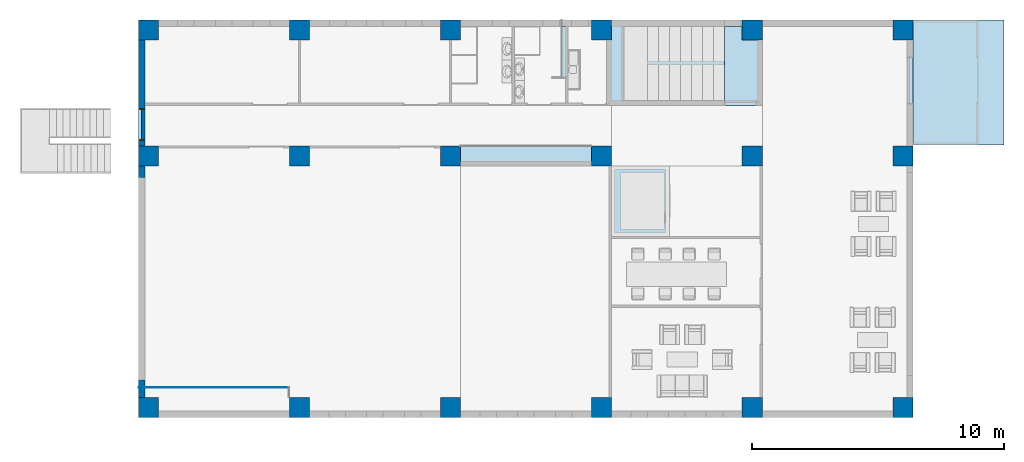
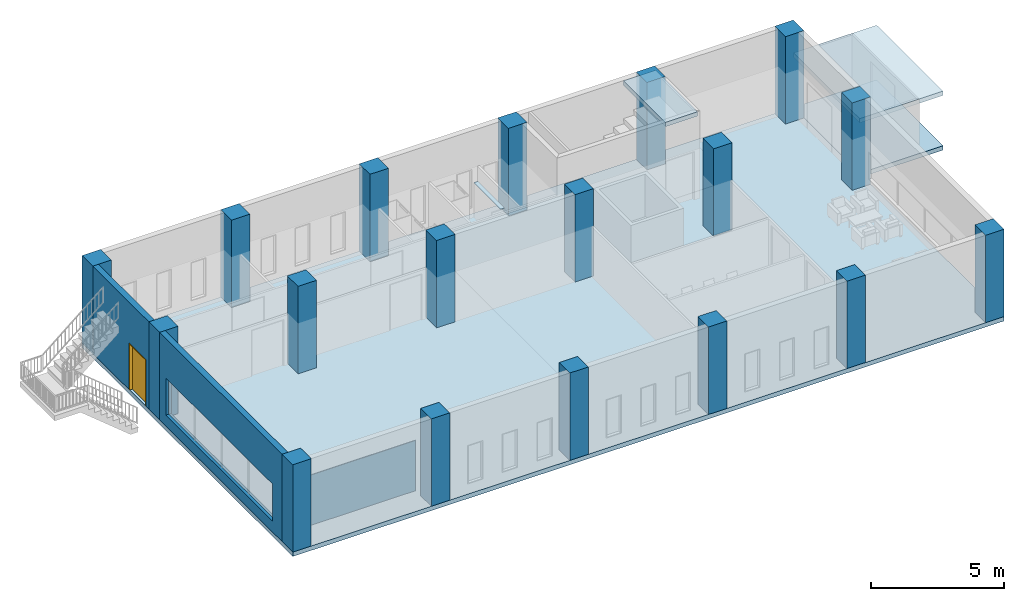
# One storey, part 1 of 17: 18 columns, 5 slabs, 2 walls, 1 door, 2 openings.
"""IFC2X3 building model written with IfcOpenShell, lengths in millimetres."""

import ifcopenshell
import ifcopenshell.guid

model = None  # the IFC model being written
_history = None  # IfcOwnerHistory: only IFC2X3 demands one
_inside = {}  # id of a spatial element -> (the spatial element, [elements in it])
_under = {}  # id of a project, library or spatial element -> (it, [spatial elements below it])
_declared = {}  # id of a project -> (the project, [libraries it declares])
_typed = {}  # id of a type object -> (the type object, [elements of that type])
_made_of = {}  # id of a material, layer set ... -> (it, [elements and type objects made of it])


def new_model(schema):
    """Start an empty IFC model of exactly this schema.

    Asked for "IFC4X3", IfcOpenShell would pick the latest addendum, in which some entities
    have other attributes; the version numbers below select the first issue.
    IFC2X3 requires an IfcOwnerHistory on every rooted entity: one is made here for all.
    """
    global model, _history
    if schema == "IFC4X3":
        model = ifcopenshell.file(schema_version=(4, 3, 0, 0))
    else:
        model = ifcopenshell.file(schema=schema)
    _inside.clear()
    _under.clear()
    _declared.clear()
    _typed.clear()
    _made_of.clear()
    _history = None
    if model.schema == "IFC2X3":
        org = make("IfcOrganization", Name="unknown")
        user = make(
            "IfcPersonAndOrganization",
            ThePerson=make("IfcPerson", FamilyName="unknown"),
            TheOrganization=org,
        )
        app = make(
            "IfcApplication",
            ApplicationDeveloper=org,
            Version="unknown",
            ApplicationFullName="unknown",
            ApplicationIdentifier="unknown",
        )
        _history = make(
            "IfcOwnerHistory",
            OwningUser=user,
            OwningApplication=app,
            ChangeAction="ADDED",
            CreationDate=0,
        )
    return model


def make(cls, **values):
    """One entity of the class cls with the attributes given. An attribute that is None is left unset."""
    return model.create_entity(
        cls, **{name: value for name, value in values.items() if value is not None}
    )


def entity(cls, *values):
    """Any entity or typed value of the class cls, its attributes in the order of the schema. None: left unset."""
    e = model.create_entity(cls)
    for i, value in enumerate(values):
        if value is not None:
            e[i] = value
    return e


def rooted(cls, **values):
    """An entity with a GlobalId (a new one), such as an element, a storey or a relation."""
    return make(cls, GlobalId=ifcopenshell.guid.new(), OwnerHistory=_history, **values)


def si_unit(unit_type, name, prefix=None):
    """IfcSIUnit, for example si_unit("LENGTHUNIT", "METRE", prefix="MILLI")."""
    return make("IfcSIUnit", UnitType=unit_type, Prefix=prefix, Name=name)


def converted_unit(unit_type, name, factor, base, dimensions=None, offset=None):
    """IfcConversionBasedUnit, such as the inch: factor (a typed value) times the base unit."""
    return make(
        "IfcConversionBasedUnit"
        if offset is None
        else "IfcConversionBasedUnitWithOffset",
        ConversionOffset=offset,
        Dimensions=None
        if dimensions is None
        else entity("IfcDimensionalExponents", *dimensions),
        UnitType=unit_type,
        Name=name,
        ConversionFactor=make(
            "IfcMeasureWithUnit", ValueComponent=factor, UnitComponent=base
        ),
    )


def assignment(units):
    """IfcUnitAssignment: the units of a project."""
    return None if units is None else make("IfcUnitAssignment", Units=units)


def point(xyz):
    """IfcCartesianPoint."""
    return None if xyz is None else make("IfcCartesianPoint", Coordinates=xyz)


def direction(xyz):
    """IfcDirection."""
    return None if xyz is None else make("IfcDirection", DirectionRatios=xyz)


def frame(location, z_axis=None, x_axis=None):
    """IfcAxis2Placement3D, a coordinate frame: its origin and axes. An axis left out is left unset."""
    return make(
        "IfcAxis2Placement3D",
        Location=point(location),
        Axis=direction(z_axis),
        RefDirection=direction(x_axis),
    )


def frame_2d(location, x_axis=None):
    """IfcAxis2Placement2D, a coordinate frame in the plane: its origin and x axis."""
    return make(
        "IfcAxis2Placement2D", Location=point(location), RefDirection=direction(x_axis)
    )


def origin_with_axes():
    """The frame at (0, 0, 0) with the z axis (0, 0, 1) and the x axis (1, 0, 0) written out."""
    return frame((0.0, 0.0, 0.0), z_axis=(0.0, 0.0, 1.0), x_axis=(1.0, 0.0, 0.0))


def origin_2d_with_axis():
    """The frame at (0, 0) in the plane with the x axis (1, 0) written out."""
    return frame_2d((0.0, 0.0), x_axis=(1.0, 0.0))


def place(relative_to, where):
    """IfcLocalPlacement: puts the frame where relative to a parent placement (None: the world)."""
    return make(
        "IfcLocalPlacement", PlacementRelTo=relative_to, RelativePlacement=where
    )


def context(
    kind, dimensions, precision=None, world=None, true_north=None, identifier=None
):
    """IfcGeometricRepresentationContext, for example the 3D "Model" context."""
    return make(
        "IfcGeometricRepresentationContext",
        ContextIdentifier=identifier,
        ContextType=kind,
        CoordinateSpaceDimension=dimensions,
        Precision=precision,
        WorldCoordinateSystem=world,
        TrueNorth=true_north,
    )


def project(units=None, contexts=None):
    """IfcProject with its units and contexts."""
    return rooted(
        "IfcProject",
        Name="project",
        RepresentationContexts=contexts,
        UnitsInContext=assignment(units),
    )


def spatial(cls, under=None, at=None, **own):
    """A site, building, storey or space (cls), placed at a placement, below another one or the project."""
    s = rooted(cls, ObjectPlacement=at, **own)
    if under is not None:
        _under.setdefault(under.id(), (under, []))[1].append(s)
    return s


def polyline(points):
    """IfcPolyline through the points."""
    return make("IfcPolyline", Points=[point(p) for p in points])


def profile(cls, at=None, kind="AREA", **sizes):
    """A parametric profile (cls). Its sizes go by their IFC names, for example OverallWidth=200.0."""
    return make(cls, ProfileType=kind, Position=at, **sizes)


def rectangle(**sizes):
    """IfcRectangleProfileDef."""
    return profile("IfcRectangleProfileDef", **sizes)


def outline(outer, holes=None, kind="AREA"):
    """IfcArbitraryClosedProfileDef: a profile drawn as a closed curve; with holes, ...WithVoids."""
    if holes is None:
        return make("IfcArbitraryClosedProfileDef", ProfileType=kind, OuterCurve=outer)
    return make(
        "IfcArbitraryProfileDefWithVoids",
        ProfileType=kind,
        OuterCurve=outer,
        InnerCurves=holes,
    )


def extrude(swept, where, along, depth):
    """IfcExtrudedAreaSolid: the profile swept, set in the frame where, extruded along a direction by depth."""
    return make(
        "IfcExtrudedAreaSolid",
        SweptArea=swept,
        Position=where,
        ExtrudedDirection=direction(along),
        Depth=depth,
    )


def faces_of(points, faces, orient=None, outer=None):
    """IfcFace entities. A face is a list of loops; a loop is a list of indices into points, from 0.

    orient and outer hold one flag for each loop. By default every Orientation is true, the
    first loop of a face is its IfcFaceOuterBound and the others are IfcFaceBound.
    """
    made = []
    for i, loops in enumerate(faces):
        bounds = []
        for j, loop in enumerate(loops):
            is_outer = j == 0 if outer is None else outer[i][j]
            bounds.append(
                make(
                    "IfcFaceOuterBound" if is_outer else "IfcFaceBound",
                    Bound=make("IfcPolyLoop", Polygon=[points[k] for k in loop]),
                    Orientation=True if orient is None else orient[i][j],
                )
            )
        made.append(make("IfcFace", Bounds=bounds))
    return made


def open_shell(faces, orient=None, outer=None):
    """The faces of one IfcOpenShell. surface_model builds it on its shared points."""
    return ("IfcOpenShell", faces, orient, outer)


def surface_model(cls, points, shells):
    """IfcFaceBasedSurfaceModel or IfcShellBasedSurfaceModel (cls): surfaces that need not close."""
    shared = [point(p) for p in points]
    made = [make(c, CfsFaces=faces_of(shared, fs, o, b)) for c, fs, o, b in shells]
    if cls == "IfcFaceBasedSurfaceModel":
        return make(cls, FbsmFaces=made)
    return make(cls, SbsmBoundary=made)


def shape(context_of_items, identifier, shape_type, items):
    """IfcShapeRepresentation: the items that make up one representation, for example the "Body"."""
    return make(
        "IfcShapeRepresentation",
        ContextOfItems=context_of_items,
        RepresentationIdentifier=identifier,
        RepresentationType=shape_type,
        Items=items,
    )


def material(Name=None, Category=None):
    """IfcMaterial."""
    return make("IfcMaterial", Name=Name, Category=Category)


def layer(
    of_material, thickness, ventilated=None, Name=None, Category=None, Priority=None
):
    """IfcMaterialLayer: one layer of a wall or slab, of a material (None: an air gap)."""
    return make(
        "IfcMaterialLayer",
        Material=of_material,
        LayerThickness=thickness,
        IsVentilated=ventilated,
        Name=Name,
        Category=Category,
        Priority=Priority,
    )


def layer_set(layers, Name=None):
    """IfcMaterialLayerSet."""
    return make("IfcMaterialLayerSet", MaterialLayers=layers, LayerSetName=Name)


def layer_usage(for_layer_set, set_direction, sense, offset, extent=None):
    """IfcMaterialLayerSetUsage: how a layer set lies in its element."""
    return make(
        "IfcMaterialLayerSetUsage",
        ForLayerSet=for_layer_set,
        LayerSetDirection=set_direction,
        DirectionSense=sense,
        OffsetFromReferenceLine=offset,
        ReferenceExtent=extent,
    )


def made_of(thing, what):
    """Note that an element or type object is made of a material, layer set ...; save() writes the relation."""
    if what is not None:
        _made_of.setdefault(what.id(), (what, []))[1].append(thing)
    return thing


def type_object(cls, material=None, **own):
    """A type object (cls), such as IfcWallType, which elements share."""
    return made_of(rooted(cls, **own), material)


def element(
    cls,
    number,
    at=None,
    inside=None,
    cuts=None,
    type_object=None,
    material=None,
    context=None,
    identifier="Body",
    shape_type=None,
    held_by="IfcProductDefinitionShape",
    body=None,
    shapes=None,
    **own,
):
    """One element of the class cls, such as IfcWall. Its Tag is "e" and its number.

    at: its placement. inside: the storey or other place that contains it. cuts: it is an
    opening in that element (IfcRelVoidsElement). A single representation is given by context,
    identifier, shape_type and body (its items); several are given by shapes. held_by: the class
    of the entity that holds the representations. save() writes the other relations.
    """
    e = rooted(cls, Tag="e%d" % number, ObjectPlacement=at, **own)
    if body is not None:
        shapes = [shape(context, identifier, shape_type, body)]
    if shapes is not None:
        e.Representation = make(held_by, Representations=shapes)
    if inside is not None:
        _inside.setdefault(inside.id(), (inside, []))[1].append(e)
    if cuts is not None:
        rooted(
            "IfcRelVoidsElement", RelatingBuildingElement=cuts, RelatedOpeningElement=e
        )
    if type_object is not None:
        _typed.setdefault(type_object.id(), (type_object, []))[1].append(e)
    return made_of(e, material)


def fill(opening, filler):
    """IfcRelFillsElement: the door or window that sits in an opening."""
    return rooted(
        "IfcRelFillsElement",
        RelatingOpeningElement=opening,
        RelatedBuildingElement=filler,
    )


def aggregate(whole, parts):
    """IfcRelAggregates: a whole, such as a stair, and the parts it consists of."""
    return rooted("IfcRelAggregates", RelatingObject=whole, RelatedObjects=parts)


def save(model, path):
    """Write the relations noted so far, then the file.

    IfcRelAggregates (storeys below a building ...), IfcRelContainedInSpatialStructure (elements
    in a storey), IfcRelDefinesByType, IfcRelAssociatesMaterial and IfcRelDeclares: one each for
    every whole, place, type object, material and project.
    """
    for whole, parts in _under.values():
        aggregate(whole, parts)
    for where, things in _inside.values():
        rooted(
            "IfcRelContainedInSpatialStructure",
            RelatedElements=things,
            RelatingStructure=where,
        )
    for kind, things in _typed.values():
        rooted("IfcRelDefinesByType", RelatedObjects=things, RelatingType=kind)
    for what, things in _made_of.values():
        rooted("IfcRelAssociatesMaterial", RelatedObjects=things, RelatingMaterial=what)
    for by, libraries in _declared.values():
        rooted("IfcRelDeclares", RelatingContext=by, RelatedDefinitions=libraries)
    model.write(path)


model = new_model("IFC2X3")

# Units and contexts
model_context = context("Model", 3, precision=1e-05, world=origin_with_axes(), true_north=direction((0.0, 1.0)))
ifc_project = project(units=[si_unit("LENGTHUNIT", "METRE", prefix="MILLI"), si_unit("AREAUNIT", "SQUARE_METRE"), si_unit("VOLUMEUNIT", "CUBIC_METRE"), converted_unit("PLANEANGLEUNIT", "DEGREE", entity("IfcPlaneAngleMeasure", 0.017453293), si_unit("PLANEANGLEUNIT", "RADIAN"), dimensions=[0, 0, 0, 0, 0, 0, 0]), si_unit("SOLIDANGLEUNIT", "STERADIAN"), si_unit("MASSUNIT", "GRAM"), si_unit("TIMEUNIT", "SECOND"), si_unit("THERMODYNAMICTEMPERATUREUNIT", "DEGREE_CELSIUS"), si_unit("LUMINOUSINTENSITYUNIT", "LUMEN")], contexts=[model_context])

# Site, building, storey
site_placement = place(None, origin_with_axes())
site = spatial("IfcSite", under=ifc_project, at=site_placement, Name="\x83T\x83C\x83g", CompositionType="ELEMENT")
building_placement = place(site_placement, origin_with_axes())
building = spatial("IfcBuilding", under=site, at=building_placement, Name="Daitec-Sample 201208", CompositionType="ELEMENT")
storey_placement = place(building_placement, origin_with_axes())
storey = spatial("IfcBuildingStorey", under=building, at=storey_placement, Name="1F", CompositionType="ELEMENT", Elevation=0.0)

# Columns
ifc_material_1 = material(Name="\x83R\x83\x93\x83N\x83\x8a\x81[\x83g-\x8d\\\x91¢2")
column_type = type_object("IfcColumnType", Name="800X800", PredefinedType="NOTDEFINED")
for number, where, z_axis, x_axis, name in (
    (1, (30500.0, 18400.0, 0.0), (0.0, 0.0, 1.0), (1.0, 0.0, 0.0), "C9"),
    (2, (6500.0, 8400.0, 0.0), (0.0, 0.0, 1.0), (1.0, 0.0, 0.0), "C1"),
    (3, (12500.0, 8400.0, 0.0), (0.0, 0.0, 1.0), (1.0, 0.0, 0.0), "C2"),
    (4, (18500.0, 8400.0, 0.0), (0.0, 0.0, 1.0), (1.0, 0.0, 0.0), "C3"),
    (5, (24500.0, 8400.0, 0.0), (0.0, 0.0, 1.0), (1.0, 0.0, 0.0), "C4"),
    (6, (30500.0, 8400.0, 0.0), (0.0, 0.0, 1.0), (1.0, 0.0, 0.0), "C5"),
    (7, (36500.0, 8400.0, 0.0), (0.0, 0.0, 1.0), (1.0, 0.0, 0.0), "C6"),
    (8, (36500.0, 18400.0, 0.0), (0.0, 0.0, 1.0), (1.0, 0.0, 0.0), "C7"),
    (9, (36500.0, 23400.0, 0.0), (0.0, 0.0, 1.0), (1.0, 0.0, 0.0), "C8"),
    (10, (30500.0, 23400.0, 0.0), (0.0, 0.0, 1.0), (1.0, 0.0, 0.0), "C9"),
    (11, (24500.0, 23400.0, 0.0), (0.0, 0.0, 1.0), (1.0, 0.0, 0.0), "C0"),
    (12, (18500.0, 23400.0, 0.0), (0.0, 0.0, 1.0), (1.0, 0.0, 0.0), "C1"),
    (13, (12500.0, 23400.0, 0.0), (0.0, 0.0, 1.0), (1.0, 0.0, 0.0), "C3"),
    (14, (6500.0, 23400.0, 0.0), (0.0, 0.0, 1.0), (1.0, 0.0, 0.0), "C4"),
    (15, (6500.0, 18400.0, 0.0), (0.0, 0.0, 1.0), (1.0, 0.0, 0.0), "C5"),
    (16, (12500.0, 18400.0, 0.0), (0.0, 0.0, 1.0), (1.0, 0.0, 0.0), "C6"),
    (17, (18500.0, 18400.0, 0.0), (0.0, 0.0, 1.0), (1.0, 0.0, 0.0), "C7"),
    (18, (24500.0, 18400.0, 0.0), (0.0, 0.0, 1.0), (1.0, 0.0, 0.0), "C8"),
):
    element("IfcColumn", number, at=place(storey_placement, frame(where, z_axis=z_axis, x_axis=x_axis)), inside=storey, type_object=column_type, material=ifc_material_1, Name=name, ObjectType="800X800", context=model_context, shape_type="SweptSolid", body=[
        extrude(rectangle(XDim=800.0, YDim=800.0, at=origin_2d_with_axis()), origin_with_axes(), (0.0, 0.0, 1.0), 4000.0),
    ])

# Slabs
ifc_layer_1 = layer(ifc_material_1, 200.0, ventilated="UNKNOWN")
ifc_layer_set_1 = layer_set([ifc_layer_1], Name="\x83R\x83\x93\x83N\x83\x8a\x81[\x83g-\x8d\\\x91¢2 200")
ifc_layer_usage_1 = layer_usage(ifc_layer_set_1, "AXIS3", "NEGATIVE", 200.0)
slab_1_placement = place(storey_placement, frame((36900.0, 23800.0, -200.0), z_axis=(0.0, 0.0, 1.0), x_axis=(1.0, 0.0, 0.0)))
element("IfcSlab", 19, at=slab_1_placement, inside=storey, material=ifc_layer_usage_1, Name="S1", PredefinedType="FLOOR", context=model_context, shape_type="SweptSolid", body=[
    extrude(outline(polyline([(0.0, 0.0), (0.0, -4978.442), (3608.0041, -4977.1697), (3608.0041, 0.0), (0.0, 0.0)])), origin_with_axes(), (0.0, 0.0, 1.0), 200.0),
])
ifc_layer_usage_2 = layer_usage(ifc_layer_set_1, "AXIS3", "NEGATIVE", 200.0)
slab_2_placement = place(storey_placement, frame((36900.0, 23800.0, 2300.0), z_axis=(0.0, 0.0, 1.0), x_axis=(1.0, 0.0, 0.0)))
element("IfcSlab", 20, at=slab_2_placement, inside=storey, material=ifc_layer_usage_2, Name="S8", PredefinedType="FLOOR", context=model_context, shape_type="SweptSolid", body=[
    extrude(outline(polyline([(0.0, 0.0), (0.0, -4977.1697), (3608.0041, -4977.1697), (3608.0041, 0.0), (0.0, 0.0)])), origin_with_axes(), (0.0, 0.0, 1.0), 200.0),
])
ifc_layer_usage_3 = layer_usage(ifc_layer_set_1, "AXIS3", "NEGATIVE", 200.0)
slab_3_placement = place(storey_placement, frame((29393.973, 23550.0, 3800.0), z_axis=(0.0, 0.0, 1.0), x_axis=(1.0, 0.0, 0.0)))
element("IfcSlab", 21, at=slab_3_placement, inside=storey, material=ifc_layer_usage_3, Name="S7", PredefinedType="FLOOR", context=model_context, shape_type="SweptSolid", body=[
    extrude(outline(polyline([(0.0, 0.0), (0.0, -3150.0911), (1394.2989, -3150.0911), (1394.2989, 0.0), (0.0, 0.0)])), origin_with_axes(), (0.0, 0.0, 1.0), 200.0),
])
ifc_layer_usage_4 = layer_usage(ifc_layer_set_1, "AXIS3", "NEGATIVE", 200.0)
slab_4_placement = place(storey_placement, frame((6100.0, 23800.0, -200.0), z_axis=(0.0, 0.0, 1.0), x_axis=(1.0, 0.0, 0.0)))
element("IfcSlab", 22, at=slab_4_placement, inside=storey, material=ifc_layer_usage_4, Name="S0", PredefinedType="FLOOR", context=model_context, shape_type="SweptSolid", body=[
    extrude(outline(polyline([(0.0, 0.0), (0.0, -15800.0), (30800.0, -15800.0), (30800.0, 0.0), (0.0, 0.0)])), origin_with_axes(), (0.0, 0.0, 1.0), 200.0),
])
ifc_material_2 = material(Name="\x83v\x83\x89\x83X\x83^\x81[\x83{\x81[\x83h")
ifc_layer_2 = layer(ifc_material_2, 10.0, ventilated="UNKNOWN")
ifc_layer_set_2 = layer_set([ifc_layer_2], Name="\x83v\x83\x89\x83X\x83^\x81[\x83{\x81[\x83h 10")
ifc_layer_usage_5 = layer_usage(ifc_layer_set_2, "AXIS3", "NEGATIVE", 10.0)
slab_5_placement = place(storey_placement, frame((22919.95, 23550.0, 1590.0), z_axis=(0.0, 0.0, 1.0), x_axis=(1.0, 0.0, 0.0)))
element("IfcSlab", 23, at=slab_5_placement, inside=storey, material=ifc_layer_usage_5, Name="S2", PredefinedType="FLOOR", context=model_context, shape_type="SweptSolid", body=[
    extrude(outline(polyline([(0.0, 0.0), (0.0, -2010.0), (171.88725, -2010.0), (171.88725, 0.0), (0.0, 0.0)])), origin_with_axes(), (0.0, 0.0, 1.0), 10.0),
])

# Wall, openings, door
ifc_layer_3 = layer(ifc_material_1, 250.0, ventilated="UNKNOWN")
ifc_layer_set_3 = layer_set([ifc_layer_3], Name="\x83R\x83\x93\x83N\x83\x8a\x81[\x83g-\x8d\\\x91¢2 250")
ifc_layer_usage_6 = layer_usage(ifc_layer_set_3, "AXIS2", "POSITIVE", 0.0)
wall_type_1 = type_object("IfcWallType", Name="\x83R\x83\x93\x83N\x83\x8a\x81[\x83g-\x8d\\\x91¢2 250", PredefinedType="NOTDEFINED")
wall_1_placement = place(storey_placement, frame((6100.0, 23800.0, 0.0), z_axis=(0.0, 0.0, 1.0), x_axis=(0.0, -1.0, 0.0)))
wall_1 = element("IfcWallStandardCase", 24, at=wall_1_placement, inside=storey, type_object=wall_type_1, material=ifc_layer_usage_6, Name="W9", context=model_context, shape_type="SweptSolid", body=[
    extrude(outline(polyline([(0.0, 0.0), (15800.0, 0.0), (15550.0, 250.0), (250.0, 250.0), (0.0, 0.0)])), origin_with_axes(), (0.0, 0.0, 1.0), 4000.0),
])
opening_1_placement = place(wall_1_placement, frame((10282.79, 0.0, 500.0), z_axis=(0.0, 0.0, 1.0), x_axis=(1.0, 0.0, 0.0)))
element("IfcOpeningElement", 25, at=opening_1_placement, cuts=wall_1, context=model_context, shape_type="SweptSolid", body=[
    extrude(rectangle(XDim=8000.0, YDim=1700.0, at=origin_2d_with_axis()), frame((0.0, 251.0, 850.0), z_axis=(0.0, -1.0, 0.0), x_axis=(1.0, 0.0, 0.0)), (0.0, 0.0, 1.0), 252.0),
    extrude(rectangle(XDim=8000.0, YDim=1700.0, at=origin_2d_with_axis()), frame((0.0, 249.0, 850.0), z_axis=(0.0, 1.0, 0.0), x_axis=(1.0, 0.0, 0.0)), (0.0, 0.0, 1.0), 252.0),
    extrude(rectangle(XDim=8060.0, YDim=1760.0, at=origin_2d_with_axis()), frame((0.0, 124.0, 850.0), z_axis=(0.0, 1.0, 0.0), x_axis=(1.0, 0.0, 0.0)), (0.0, 0.0, 1.0), 252.0),
])
opening_2_placement = place(wall_1_placement, frame((4155.9596, 0.0, 0.0), z_axis=(0.0, 0.0, 1.0), x_axis=(1.0, 0.0, 0.0)))
opening_2 = element("IfcOpeningElement", 26, at=opening_2_placement, cuts=wall_1, context=model_context, shape_type="SweptSolid", body=[
    extrude(rectangle(XDim=1260.0, YDim=2130.0, at=origin_2d_with_axis()), frame((0.0, 126.0, 1065.0), z_axis=(0.0, -1.0, 0.0), x_axis=(1.0, 0.0, 0.0)), (0.0, 0.0, 1.0), 252.0),
])
ifc_material_3 = material(Name="\x94w\x8ci")
door_style = type_object("IfcDoorStyle", ConstructionType="NOTDEFINED", OperationType="NOTDEFINED", ParameterTakesPrecedence=False, Sizeable=False)
door_placement = place(opening_2_placement, frame((-600.0, 0.0, 0.0), z_axis=(0.0, 0.0, 1.0), x_axis=(1.0, 0.0, 0.0)))
door = element("IfcDoor", 27, at=door_placement, inside=storey, type_object=door_style, material=ifc_material_3, Name="SD7", OverallHeight=2100.0, OverallWidth=1200.0, context=model_context, shape_type="SurfaceModel", body=[
    surface_model("IfcShellBasedSurfaceModel", [(1200.0, 125.0, 0.0), (1200.0, 125.0, 2100.0), (0.0, 125.0, 2100.0), (0.0, 125.0, 0.0)], [open_shell([[[0, 1, 2, 3]]])]),
    surface_model("IfcShellBasedSurfaceModel", [(1230.0, 0.0, 0.0), (1230.0, 0.0, 2130.0), (-30.0, 0.0, 2130.0), (-30.0, 0.0, 0.0), (0.0, 0.0, 0.0), (0.0, 0.0, 2100.0), (1200.0, 0.0, 2100.0), (1200.0, 0.0, 0.0)], [open_shell([[[0, 1, 2, 3, 4, 5, 6, 7]]])]),
    surface_model("IfcShellBasedSurfaceModel", [(1230.0, 250.0, 0.0), (1230.0, 250.0, 2130.0), (-30.0, 250.0, 2130.0), (-30.0, 250.0, 0.0), (0.0, 250.0, 0.0), (0.0, 250.0, 2100.0), (1200.0, 250.0, 2100.0), (1200.0, 250.0, 0.0)], [open_shell([[[0, 1, 2, 3, 4, 5, 6, 7]]])]),
    surface_model("IfcShellBasedSurfaceModel", [(1200.0, 0.0, 0.0), (1200.0, 0.0, 2100.0), (1200.0, 250.0, 2100.0), (1200.0, 250.0, 0.0), (0.0, 0.0, 2100.0), (0.0, 250.0, 2100.0), (1230.0, 0.0, 0.0), (1230.0, 250.0, 0.0), (0.0, 0.0, 0.0), (0.0, 250.0, 0.0), (1230.0, 0.0, 2130.0), (1230.0, 250.0, 2130.0), (-30.0, 0.0, 0.0), (-30.0, 250.0, 0.0), (-30.0, 0.0, 2130.0), (-30.0, 250.0, 2130.0)], [open_shell([[[0, 1, 2, 3]], [[1, 4, 5, 2]], [[6, 0, 3, 7]], [[4, 8, 9, 5]], [[10, 6, 7, 11]], [[8, 12, 13, 9]], [[14, 10, 11, 15]], [[12, 14, 15, 13]]])]),
])
fill(opening_2, door)

# Wall
ifc_material_4 = material(Name="\x83X\x83`\x81[\x83\x8b")
ifc_layer_4 = layer(ifc_material_4, 20.0, ventilated="UNKNOWN")
ifc_layer_set_4 = layer_set([ifc_layer_4], Name="\x83X\x83`\x81[\x83\x8b 20")
ifc_layer_usage_7 = layer_usage(ifc_layer_set_4, "AXIS2", "NEGATIVE", 0.0)
wall_type_2 = type_object("IfcWallType", Name="\x83X\x83`\x81[\x83\x8b 20", PredefinedType="NOTDEFINED")
wall_2_placement = place(storey_placement, frame((6100.0, 9200.0, 0.0), z_axis=(0.0, 0.0, 1.0), x_axis=(1.0, 0.0, 0.0)))
element("IfcWallStandardCase", 28, at=wall_2_placement, inside=storey, type_object=wall_type_2, material=ifc_layer_usage_7, Name="W0", context=model_context, shape_type="SweptSolid", body=[
    extrude(outline(polyline([(0.0, -20.0), (6000.0, -20.0), (6000.0, 0.0), (0.0, 0.0), (0.0, -20.0)])), origin_with_axes(), (0.0, 0.0, 1.0), 2300.0),
])

save(model, "model.ifc")
